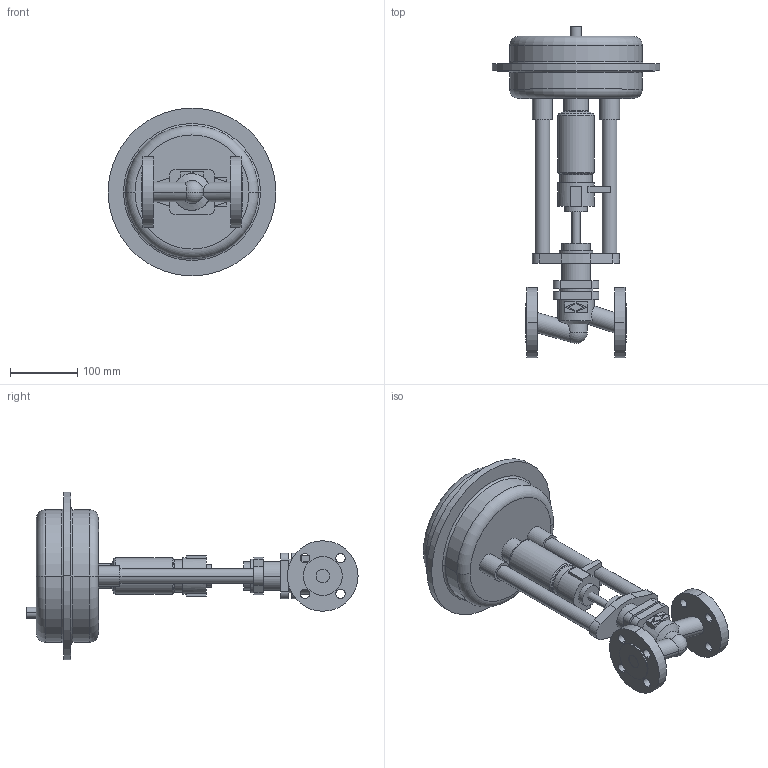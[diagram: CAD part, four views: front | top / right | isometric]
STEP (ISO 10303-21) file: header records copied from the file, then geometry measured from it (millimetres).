
FILE_DESCRIPTION(('OneSpaceDesigner STEP Export'),'2;1');
FILE_NAME('c000001402.stp','2005-02-14T14:02:04',(''),(''),'OneSpace Designer STEP processor (Jan. 2003) for AP203(Solid Model)','OneSpace Designer 12.01D 09-Jul-2004 (C) CoCreate Software GmbH','');
FILE_SCHEMA(('CONFIG_CONTROL_DESIGN'));
Length unit declared in the file: millimetre
Products named in the file (2): 1; 2
Bounding box: 250 x 494.5 x 250 mm (x, y, z)
Volume: 4226109.5 mm3; surface area: 317376.2 mm2
Topology: 2 solids, 2 shells, 181 faces, 431 edges, 279 vertices
Faces by surface type: cylinder 84, plane 73, torus 16, cone 6, sphere 2
Entity records: 4988 total; most frequent: CARTESIAN_POINT 947, ORIENTED_EDGE 858, DIRECTION 727, EDGE_CURVE 429, VERTEX_POINT 279, AXIS2_PLACEMENT_3D 264, EDGE_LOOP 224, VECTOR 199
